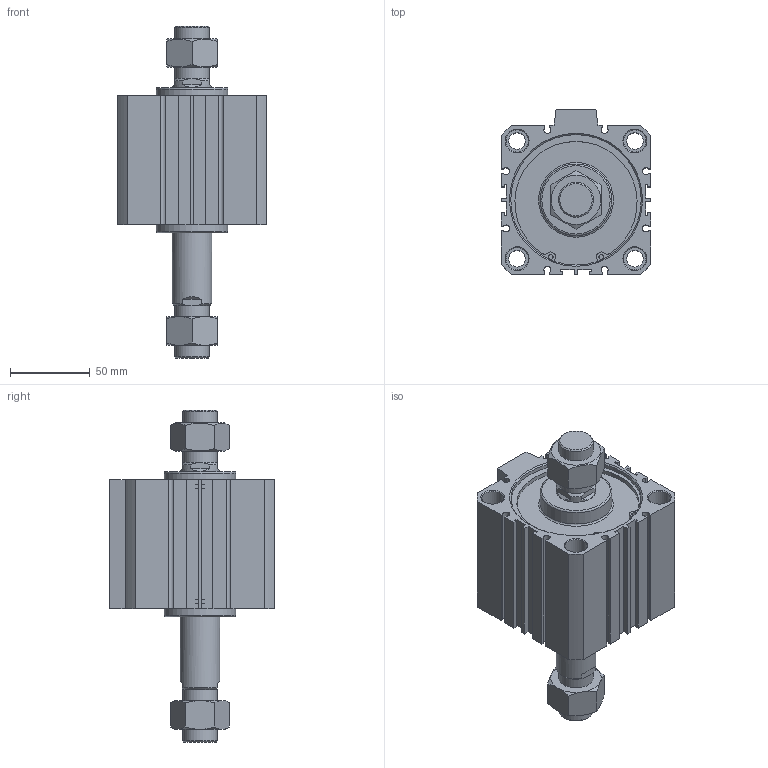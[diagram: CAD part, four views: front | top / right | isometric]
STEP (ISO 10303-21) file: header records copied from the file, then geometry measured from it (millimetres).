
FILE_DESCRIPTION((''),'2;1');
FILE_NAME('I:\3D電子目錄\氣缸\JDD\JDD-B\JDD80-B\JDD80x40-B.stp','2007-02-13T16:49:15',('662F206'),(''),'Autodesk Inventor 10','Autodesk Inventor 10','');
FILE_SCHEMA(('AUTOMOTIVE_DESIGN { 1 0 10303 214 1 1 1 1 }'));
Length unit declared in the file: millimetre
Products named in the file (3): JDD80-B; R 形環 82
Assembly tree (3 placements, depth 2):
  JDD80-B
    JDD80-B
    R 形環 82  x2
Bounding box: 94 x 104 x 208.7 mm (x, y, z)
Volume: 716220.1 mm3; surface area: 98599.7 mm2
Topology: 3 solids, 3 shells, 226 faces, 548 edges, 354 vertices
Faces by surface type: plane 130, cylinder 56, cone 36, bspline 2, torus 2
Full cylindrical faces by diameter (mm): 3.1 x4, 3.5 x2, 10.4 x4, 14 x8, 22 x4, 25 x2, 45 x2, 82 x4, 85.5 x2
Entity records: 6033 total; most frequent: CARTESIAN_POINT 1188, DIRECTION 994, ORIENTED_EDGE 916, EDGE_CURVE 458, AXIS2_PLACEMENT_3D 366, VERTEX_POINT 326, EDGE_LOOP 304, VECTOR 262
